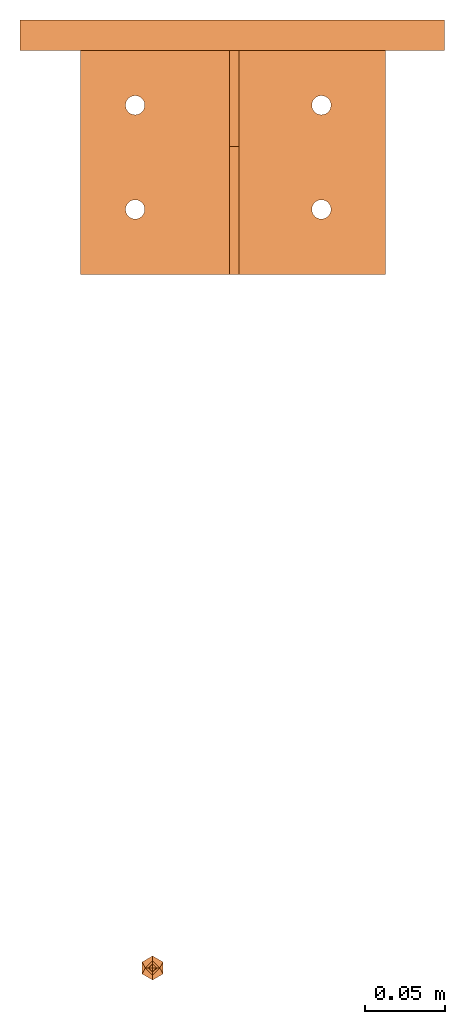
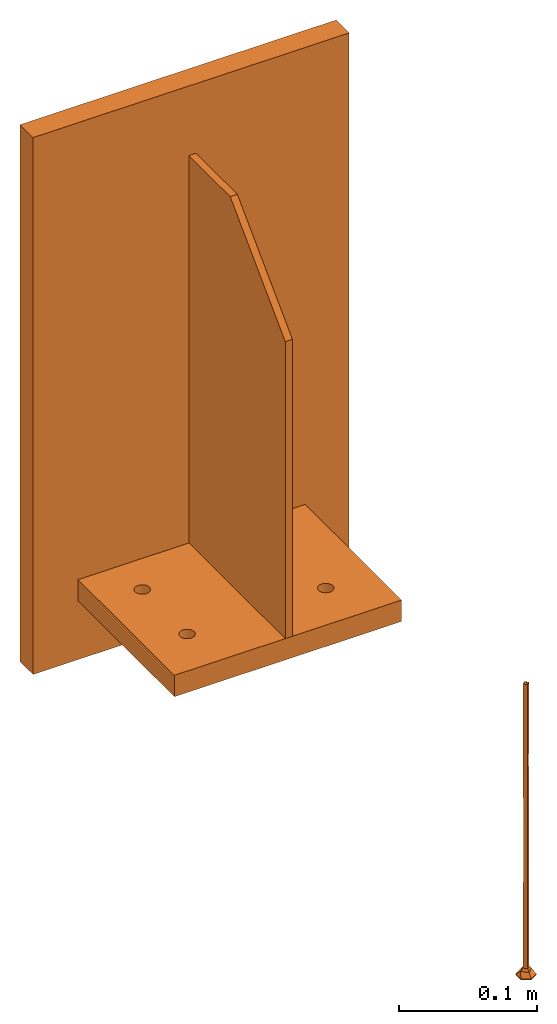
# One storey: 4 proxies.
"""IFC2X3 building model written with IfcOpenShell, lengths in millimetres."""

from ifc_helpers import new_model, entity, si_unit, converted_unit, derived_unit, direction, frame, frame_2d, origin, place, context, subcontext, project, spatial, polyline, circle_curve, parameter, trimmed, segment, composite_curve, rectangle, outline, extrude, faceted_brep, source, transform, mapped, material, type_object, type_shapes, element, save


model = new_model("IFC2X3")

# Units and contexts
model_context = context("Model", 3, precision=0.01, world=origin(), true_north=direction((6.123031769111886e-17, 1.0)))
body_context = subcontext(model_context, "Body", "Model", "MODEL_VIEW")
ifc_project = project(units=[si_unit("LENGTHUNIT", "METRE", prefix="MILLI"), si_unit("AREAUNIT", "SQUARE_METRE"), si_unit("VOLUMEUNIT", "CUBIC_METRE"), converted_unit("PLANEANGLEUNIT", "DEGREE", entity("IfcPlaneAngleMeasure", 0.017453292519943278), si_unit("PLANEANGLEUNIT", "RADIAN"), dimensions=[0, 0, 0, 0, 0, 0, 0]), si_unit("MASSUNIT", "GRAM", prefix="KILO"), derived_unit("MASSDENSITYUNIT", [(si_unit("MASSUNIT", "GRAM", prefix="KILO"), 1), (si_unit("LENGTHUNIT", "METRE"), -3)]), derived_unit("IONCONCENTRATIONUNIT", [(si_unit("MASSUNIT", "GRAM", prefix="KILO"), 1), (si_unit("LENGTHUNIT", "METRE"), -3)]), derived_unit("MOMENTOFINERTIAUNIT", [(si_unit("LENGTHUNIT", "METRE"), 4)]), si_unit("TIMEUNIT", "SECOND"), si_unit("FREQUENCYUNIT", "HERTZ"), si_unit("THERMODYNAMICTEMPERATUREUNIT", "DEGREE_CELSIUS"), derived_unit("THERMALTRANSMITTANCEUNIT", [(si_unit("MASSUNIT", "GRAM", prefix="KILO"), 1), (si_unit("THERMODYNAMICTEMPERATUREUNIT", "KELVIN"), -1), (si_unit("TIMEUNIT", "SECOND"), -3)]), derived_unit("THERMALCONDUCTANCEUNIT", [(si_unit("MASSUNIT", "GRAM", prefix="KILO"), 1), (si_unit("THERMODYNAMICTEMPERATUREUNIT", "KELVIN"), -1), (si_unit("TIMEUNIT", "SECOND"), -3), (si_unit("LENGTHUNIT", "METRE"), 1)]), derived_unit("VOLUMETRICFLOWRATEUNIT", [(si_unit("LENGTHUNIT", "METRE", prefix="DECI"), 3), (si_unit("TIMEUNIT", "SECOND"), -1)]), derived_unit("MASSFLOWRATEUNIT", [(si_unit("MASSUNIT", "GRAM", prefix="KILO"), 1), (si_unit("TIMEUNIT", "SECOND"), -1)]), derived_unit("ROTATIONALFREQUENCYUNIT", [(si_unit("TIMEUNIT", "SECOND"), -1)]), si_unit("ELECTRICCURRENTUNIT", "AMPERE"), si_unit("ELECTRICVOLTAGEUNIT", "VOLT"), si_unit("POWERUNIT", "WATT"), si_unit("FORCEUNIT", "NEWTON", prefix="KILO"), si_unit("ILLUMINANCEUNIT", "LUX"), si_unit("LUMINOUSFLUXUNIT", "LUMEN"), si_unit("LUMINOUSINTENSITYUNIT", "CANDELA"), si_unit("ENERGYUNIT", "JOULE"), derived_unit("USERDEFINED", [(si_unit("MASSUNIT", "GRAM", prefix="KILO"), -1), (si_unit("LENGTHUNIT", "METRE"), -2), (si_unit("TIMEUNIT", "SECOND"), 3), (si_unit("LUMINOUSFLUXUNIT", "LUMEN"), 1)]), derived_unit("USERDEFINED", [(si_unit("MASSUNIT", "GRAM", prefix="KILO"), 1), (si_unit("TIMEUNIT", "SECOND"), -3), (si_unit("LENGTHUNIT", "METRE"), 3), (si_unit("ELECTRICCURRENTUNIT", "AMPERE"), -2)]), derived_unit("SOUNDPOWERUNIT", [(si_unit("MASSUNIT", "GRAM", prefix="KILO"), 1), (si_unit("TIMEUNIT", "SECOND"), -3), (si_unit("LENGTHUNIT", "METRE"), 2)]), derived_unit("SOUNDPRESSUREUNIT", [(si_unit("MASSUNIT", "GRAM", prefix="KILO"), 1), (si_unit("LENGTHUNIT", "METRE"), -1), (si_unit("TIMEUNIT", "SECOND"), -2)]), derived_unit("LINEARVELOCITYUNIT", [(si_unit("LENGTHUNIT", "METRE"), 1), (si_unit("TIMEUNIT", "SECOND"), -1)]), si_unit("PRESSUREUNIT", "PASCAL"), derived_unit("USERDEFINED", [(si_unit("MASSUNIT", "GRAM", prefix="KILO"), 1), (si_unit("LENGTHUNIT", "METRE"), -2), (si_unit("TIMEUNIT", "SECOND"), -2)]), derived_unit("LINEARFORCEUNIT", [(si_unit("MASSUNIT", "GRAM", prefix="KILO"), 1), (si_unit("TIMEUNIT", "SECOND"), -2)]), derived_unit("PLANARFORCEUNIT", [(si_unit("MASSUNIT", "GRAM", prefix="KILO"), 1), (si_unit("LENGTHUNIT", "METRE"), -1), (si_unit("TIMEUNIT", "SECOND"), -2)]), derived_unit("SPECIFICHEATCAPACITYUNIT", [(si_unit("THERMODYNAMICTEMPERATUREUNIT", "KELVIN"), -1), (si_unit("LENGTHUNIT", "METRE"), 2), (si_unit("TIMEUNIT", "SECOND"), -2)]), derived_unit("HEATFLUXDENSITYUNIT", [(si_unit("MASSUNIT", "GRAM", prefix="KILO"), 1), (si_unit("TIMEUNIT", "SECOND"), -3)]), derived_unit("HEATINGVALUEUNIT", [(si_unit("LENGTHUNIT", "METRE"), 2), (si_unit("TIMEUNIT", "SECOND"), -2)]), derived_unit("VAPORPERMEABILITYUNIT", [(si_unit("LENGTHUNIT", "METRE"), -1), (si_unit("TIMEUNIT", "SECOND"), 1)]), derived_unit("DYNAMICVISCOSITYUNIT", [(si_unit("MASSUNIT", "GRAM", prefix="KILO"), 1), (si_unit("TIMEUNIT", "SECOND"), -1), (si_unit("LENGTHUNIT", "METRE"), -1)]), derived_unit("THERMALEXPANSIONCOEFFICIENTUNIT", [(si_unit("THERMODYNAMICTEMPERATUREUNIT", "KELVIN"), -1)]), derived_unit("MODULUSOFELASTICITYUNIT", [(si_unit("MASSUNIT", "GRAM", prefix="KILO"), 1), (si_unit("LENGTHUNIT", "METRE"), -1), (si_unit("TIMEUNIT", "SECOND"), -2)]), derived_unit("ISOTHERMALMOISTURECAPACITYUNIT", [(si_unit("MASSUNIT", "GRAM", prefix="KILO"), -1), (si_unit("LENGTHUNIT", "METRE"), 3)]), derived_unit("MOISTUREDIFFUSIVITYUNIT", [(si_unit("TIMEUNIT", "SECOND"), -1), (si_unit("LENGTHUNIT", "METRE"), 2)]), derived_unit("MASSPERLENGTHUNIT", [(si_unit("MASSUNIT", "GRAM", prefix="KILO"), 1), (si_unit("LENGTHUNIT", "METRE"), -1)]), derived_unit("THERMALRESISTANCEUNIT", [(si_unit("MASSUNIT", "GRAM", prefix="KILO"), -1), (si_unit("TIMEUNIT", "SECOND"), 3), (si_unit("THERMODYNAMICTEMPERATUREUNIT", "KELVIN"), 1)]), derived_unit("ACCELERATIONUNIT", [(si_unit("LENGTHUNIT", "METRE"), 1), (si_unit("TIMEUNIT", "SECOND"), -2)]), derived_unit("ANGULARVELOCITYUNIT", [(si_unit("TIMEUNIT", "SECOND"), -1), (si_unit("PLANEANGLEUNIT", "RADIAN"), 1)]), derived_unit("LINEARSTIFFNESSUNIT", [(si_unit("MASSUNIT", "GRAM", prefix="KILO"), 1), (si_unit("TIMEUNIT", "SECOND"), -2)]), derived_unit("WARPINGCONSTANTUNIT", [(si_unit("LENGTHUNIT", "METRE"), 6)]), derived_unit("LINEARMOMENTUNIT", [(si_unit("MASSUNIT", "GRAM", prefix="KILO"), 1), (si_unit("LENGTHUNIT", "METRE"), 1), (si_unit("TIMEUNIT", "SECOND"), -2)]), derived_unit("TORQUEUNIT", [(si_unit("MASSUNIT", "GRAM", prefix="KILO"), 1), (si_unit("LENGTHUNIT", "METRE"), 2), (si_unit("TIMEUNIT", "SECOND"), -2)])], contexts=[model_context])

# Site, building, storey
site_placement = place(None, origin())
site = spatial("IfcSite", under=ifc_project, at=site_placement, Name="Default", CompositionType="ELEMENT")
building_placement = place(site_placement, origin())
building = spatial("IfcBuilding", under=site, at=building_placement, Name="Building Name", CompositionType="ELEMENT")
storey_placement = place(building_placement, frame((0.0, 0.0, 13448.0)))
storey = spatial("IfcBuildingStorey", under=building, at=storey_placement, Name="U/S DAYCARE ROOF", CompositionType="ELEMENT", Elevation=13447.999999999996)

# Proxies
ifc_material_1 = material(Name="Metal - Steel - 345 MPa")
building_element_proxy_type_1 = type_object("IfcBuildingElementProxyType", Name="Structural Connections 1:Structural Connections 1", PredefinedType="NOTDEFINED", material=ifc_material_1)
shared_shape_1 = source(origin(), body_context, "Body", "SweptSolid", [
    extrude(outline(polyline([(-95.22534623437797, -69.98057208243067), (95.22534623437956, -69.98057208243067), (95.22534623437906, 69.980572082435), (-95.22534623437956, 69.980572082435), (-95.22534623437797, -69.98057208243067)]), holes=[composite_curve([segment(trimmed(circle_curve(frame_2d((-55.16705616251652, -35.74666509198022), x_axis=(0.0, -1.0)), 6.0), [parameter(6.615553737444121e-13)], [parameter(180.00000000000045)], True, "PARAMETER"), False, "CONTINUOUS"), segment(trimmed(circle_curve(frame_2d((-55.16705616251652, -35.74666509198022), x_axis=(0.0, -1.0)), 6.0), [parameter(180.00000000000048)], [parameter(6.615553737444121e-13)], True, "PARAMETER"), False, "CONTINUOUS")], self_intersect=False), composite_curve([segment(trimmed(circle_curve(frame_2d((-55.16705616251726, 29.25333490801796), x_axis=(0.0, -1.0)), 6.0), [parameter(6.615553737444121e-13)], [parameter(180.00000000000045)], True, "PARAMETER"), False, "CONTINUOUS"), segment(trimmed(circle_curve(frame_2d((-55.16705616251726, 29.25333490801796), x_axis=(0.0, -1.0)), 6.0), [parameter(180.00000000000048)], [parameter(6.615553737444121e-13)], True, "PARAMETER"), False, "CONTINUOUS")], self_intersect=False), composite_curve([segment(trimmed(circle_curve(frame_2d((61.02341115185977, -35.7466650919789), x_axis=(0.0, -1.0)), 6.0), [parameter(6.615553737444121e-13)], [parameter(180.00000000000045)], True, "PARAMETER"), False, "CONTINUOUS"), segment(trimmed(circle_curve(frame_2d((61.02341115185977, -35.7466650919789), x_axis=(0.0, -1.0)), 6.0), [parameter(180.00000000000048)], [parameter(6.615553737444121e-13)], True, "PARAMETER"), False, "CONTINUOUS")], self_intersect=False), composite_curve([segment(trimmed(circle_curve(frame_2d((61.02341115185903, 29.25333490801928), x_axis=(0.0, -1.0)), 6.0), [parameter(6.615553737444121e-13)], [parameter(180.00000000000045)], True, "PARAMETER"), False, "CONTINUOUS"), segment(trimmed(circle_curve(frame_2d((61.02341115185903, 29.25333490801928), x_axis=(0.0, -1.0)), 6.0), [parameter(180.00000000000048)], [parameter(6.615553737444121e-13)], True, "PARAMETER"), False, "CONTINUOUS")], self_intersect=False)]), frame((5576.49301251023, 15609.067397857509, 13450.875000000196), z_axis=(0.0, 0.0, 1.0), x_axis=(-1.0, 0.0, 0.0)), (0.0, 0.0, 1.0), 18.93561807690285),
])
type_shapes(building_element_proxy_type_1, [shared_shape_1])
proxy_1_placement = place(storey_placement, frame((0.0, 0.0, -13448.0)))
element("IfcBuildingElementProxy", 1, at=proxy_1_placement, inside=storey, type_object=building_element_proxy_type_1, material=ifc_material_1, Name="Structural Connections 1:Structural Connections 1", ObjectType="Structural Connections 1:Structural Connections 1", context=body_context, shape_type="MappedRepresentation", body=[
    mapped(shared_shape_1, transform((0.0, 0.0, 0.0), scale=1.0)),
])
building_element_proxy_type_2 = type_object("IfcBuildingElementProxyType", Name="Structural Connections 3:Structural Connections 3", PredefinedType="NOTDEFINED", material=ifc_material_1)
shared_shape_2 = source(origin(), body_context, "Body", "SweptSolid", [
    extrude(outline(polyline([(-67.9766864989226, -153.2757527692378), (-8.015542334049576, -153.2757527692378), (71.98445766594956, -73.27575276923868), (71.98445766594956, 189.91362915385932), (-67.9766864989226, 189.91362915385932), (-67.9766864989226, -153.2757527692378)])), frame((5574.245782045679, 15611.071283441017, 13659.724247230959), z_axis=(1.0, 0.0, 0.0), x_axis=(0.0, -1.0, 0.0)), (0.0, 0.0, 1.0), 5.9999999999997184),
])
type_shapes(building_element_proxy_type_2, [shared_shape_2])
proxy_2_placement = place(storey_placement, frame((0.0, 0.0, -13448.0)))
element("IfcBuildingElementProxy", 2, at=proxy_2_placement, inside=storey, type_object=building_element_proxy_type_2, material=ifc_material_1, Name="Structural Connections 3:Structural Connections 3", ObjectType="Structural Connections 3:Structural Connections 3", context=body_context, shape_type="MappedRepresentation", body=[
    mapped(shared_shape_2, transform((0.0, 0.0, 0.0), scale=1.0)),
])
building_element_proxy_type_3 = type_object("IfcBuildingElementProxyType", Name="Structural Connections 54:Structural Connections 1", PredefinedType="NOTDEFINED", material=ifc_material_1)
shared_shape_3 = source(origin(), body_context, "Body", "SweptSolid", [
    extrude(rectangle(XDim=264.97487647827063, YDim=18.93454424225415, at=frame_2d((-5.400124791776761e-13, 0.0), x_axis=(1.0, 0.0))), frame((5576.1166277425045, 15664.21836706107, 13821.983507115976), z_axis=(0.0, 0.0, 1.0), x_axis=(-1.0, 0.0, 0.0)), (0.0, 0.0, 1.0), 475.770972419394),
])
type_shapes(building_element_proxy_type_3, [shared_shape_3])
proxy_3_placement = place(storey_placement, frame((0.0, 24.296875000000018, -13871.124999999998)))
element("IfcBuildingElementProxy", 3, at=proxy_3_placement, inside=storey, type_object=building_element_proxy_type_3, material=ifc_material_1, Name="Structural Connections 54:Structural Connections 1", ObjectType="Structural Connections 54:Structural Connections 1", context=body_context, shape_type="MappedRepresentation", body=[
    mapped(shared_shape_3, transform((0.0, 0.0, 0.0), scale=1.0)),
])
ifc_material_2 = material(Name="<Unnamed>")
building_element_proxy_type_4 = type_object("IfcBuildingElementProxyType", Name="CSK SCREW 8mm_with_Void:8-260/243_90°", PredefinedType="NOTDEFINED", material=ifc_material_2)
shared_shape_4 = source(origin(), body_context, "Body", "Brep", [
    faceted_brep([(-2.450000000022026, 0.0, -231.22838210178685), (8.511511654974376e-09, 2.450000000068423, -217.5649274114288), (0.0, 2.45000000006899, -258.5552918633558), (0.0, 2.450000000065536, -8.777915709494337), (2.4500000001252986, 0.0, -8.777915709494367), (2.4500000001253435, 0.0, -36.10482584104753), (2.4500000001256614, 0.0, -231.2283817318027), (2.4500000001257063, 0.0, -258.5552918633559), (0.9340491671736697, 1.5159508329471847, -258.5552918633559), (-2.450000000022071, 0.0, -203.90147234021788), (-2.4500000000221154, 0.0, -176.5745625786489), (0.3118487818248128, 2.430072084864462, -149.27769130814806), (-0.25950752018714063, 2.4362175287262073, -187.0012319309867), (0.22774305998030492, 2.4393919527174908, -115.89278608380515), (-2.45000000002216, 0.0, -149.24765160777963), (-2.4500000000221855, 0.0, -133.66660456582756), (-2.4500000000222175, 0.0, -114.13021763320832), (-0.06297208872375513, 2.449190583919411, -54.36239699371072), (0.2338659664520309, 2.438812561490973, -86.8333479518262), (2.4500000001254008, 0.0, -71.22225974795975), (2.4500000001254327, 0.0, -90.75864730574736), (2.450000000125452, 0.0, -102.44443176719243), (-2.450000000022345, 0.0, -36.10482547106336), (-2.4500000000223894, 0.0, -8.777915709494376), (-0.46702458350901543, 1.9829754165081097, -258.5552918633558), (-0.934049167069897, 1.5159508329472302, -258.5552918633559), (-2.4500000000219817, 0.0, -258.5552918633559), (2.4500000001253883, 0.0, -63.43173758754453), (2.4500000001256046, 0.0, -196.1109478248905), (-2.4500000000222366, 0.0, -102.4444327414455), (-2.450000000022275, 0.0, -79.012783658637), (-2.4500000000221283, 0.0, -168.7840381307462), (2.450000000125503, 0.0, -133.66660378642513), (2.450000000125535, 0.0, -153.2029901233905), (2.4500000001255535, 0.0, -164.88877580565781), (2.4500000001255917, 0.0, -188.32042322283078), (-2.4500000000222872, 0.0, -71.22226091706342), (2.4500000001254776, 0.0, -118.08555702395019), (0.23416485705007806, -2.4387838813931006, -104.42210271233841), (0.48938408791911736, -2.400625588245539, -77.01362915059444), (0.21724671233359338, -2.4403491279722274, -161.18585108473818), (3.729015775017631e-08, -2.450000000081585, -49.7682823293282), (0.0, -2.4500000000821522, -8.777915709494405), (0.33011295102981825, -2.4276584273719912, -134.1574023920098), (1.5535356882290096e-08, -2.450000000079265, -217.5649274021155), (0.0, -2.4500000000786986, -258.5552918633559), (-0.3254229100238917, -2.428291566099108, -187.94798616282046), (0.46702458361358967, -1.9829754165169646, -258.5552918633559), (0.9340491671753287, -1.515950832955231, -258.5552918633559), (-0.9340491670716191, -1.5159508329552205, -258.5552918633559), (1.3232025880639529, 0.0, -259.21973814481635), (0.0, 0.0, -260.0), (-1.3232025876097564, 0.0, -259.219738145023), (0.0, 2.739138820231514, -7.0), (2.739138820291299, 0.0, -7.0), (-2.7391388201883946, 0.0, -7.0), (0.0, -2.7391388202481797, -7.0), (4.514810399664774, 0.0, -4.6000000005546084), (0.0, 4.51481039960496, -4.600000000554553), (-4.5148103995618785, 0.0, -4.6000000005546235), (0.0, -4.514810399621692, -4.600000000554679), (3.7500000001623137, 6.495190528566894, -1.0), (6.073211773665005, 2.47126970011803, -1.0), (7.500000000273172, 0.0, -1.0), (-3.75000000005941, 6.495190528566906, -1.0), (-7.500000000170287, 0.0, -1.0), (-5.6250000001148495, 3.247595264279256, -1.0), (0.0, 6.4951905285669, -1.0), (-3.7500000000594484, -6.495190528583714, -1.0), (-6.073211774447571, -2.471269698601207, -1.0), (3.7500000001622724, -6.495190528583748, -1.0), (5.625000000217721, -3.2475952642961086, -1.0), (0.0, -6.495190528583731, -1.0), (5.6250000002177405, 3.2475952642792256, 0.0), (7.50000000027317, 0.0, 0.0), (3.750000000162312, 6.495190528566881, 0.0), (0.0, 6.495190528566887, 0.0), (-3.7500000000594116, 6.4951905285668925, 0.0), (-6.073211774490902, 2.4712696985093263, 0.0), (-7.500000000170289, 0.0, 0.0), (-5.625000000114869, -3.2475952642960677, 0.0), (-3.7500000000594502, -6.495190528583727, 0.0), (0.0, -6.495190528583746, 0.0), (3.7500000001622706, -6.495190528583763, 0.0), (6.073211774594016, -2.4712696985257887, 0.0), (0.0, 0.0, 0.0)], [[[0, 1, 2]], [[3, 4, 5]], [[6, 7, 8, 2]], [[9, 1, 0]], [[10, 11, 12]], [[1, 9, 12]], [[13, 14, 15, 16]], [[5, 17, 3]], [[16, 18, 13]], [[18, 19, 20, 21]], [[22, 23, 3]], [[0, 2, 24, 25, 26]], [[17, 5, 27, 19]], [[28, 1, 12]], [[18, 17, 19]], [[18, 16, 29, 30]], [[28, 6, 1]], [[2, 1, 6]], [[11, 10, 31, 14]], [[18, 21, 13]], [[11, 32, 33, 34]], [[12, 34, 35, 28]], [[17, 30, 36, 22]], [[30, 17, 18]], [[17, 22, 3]], [[13, 21, 37, 32]], [[13, 32, 11]], [[12, 11, 34]], [[13, 11, 14]], [[12, 9, 10]], [[29, 38, 39]], [[40, 15, 14, 31]], [[41, 42, 22]], [[15, 43, 38]], [[44, 45, 6]], [[44, 35, 46]], [[42, 41, 5]], [[45, 44, 0]], [[38, 37, 21, 20]], [[33, 43, 40]], [[39, 36, 30, 29]], [[6, 45, 47, 48, 7]], [[5, 4, 42]], [[42, 23, 22]], [[0, 26, 49, 45]], [[0, 44, 9]], [[44, 6, 28, 35]], [[5, 41, 27]], [[36, 41, 22]], [[39, 20, 19, 27]], [[39, 27, 41]], [[38, 29, 16, 15]], [[46, 40, 31]], [[37, 38, 43]], [[44, 46, 9]], [[43, 33, 32, 37]], [[40, 35, 34, 33]], [[46, 31, 10, 9]], [[36, 39, 41]], [[20, 39, 38]], [[40, 43, 15]], [[35, 40, 46]], [[8, 7, 50, 51, 2]], [[2, 51, 52, 26, 25, 24]], [[49, 26, 52, 51, 45]], [[45, 51, 50, 7, 48, 47]], [[4, 3, 53, 54]], [[53, 3, 23, 55]], [[23, 42, 56, 55]], [[56, 42, 4, 54]], [[57, 54, 53, 58]], [[53, 55, 59, 58]], [[59, 55, 56, 60]], [[56, 54, 57, 60]], [[57, 61, 62, 63]], [[61, 57, 58]], [[58, 59, 64]], [[59, 65, 66, 64]], [[58, 64, 67, 61]], [[59, 68, 69, 65]], [[68, 59, 60]], [[60, 57, 70]], [[57, 63, 71, 70]], [[60, 70, 72, 68]], [[73, 74, 63, 62, 61, 75]], [[76, 75, 61, 67, 64, 77]], [[78, 77, 64, 66, 65, 79]], [[80, 79, 65, 69, 68, 81]], [[82, 81, 68, 72, 70, 83]], [[84, 83, 70, 71, 63, 74]], [[85, 77, 78]], [[85, 78, 79]], [[85, 79, 80]], [[85, 76, 77]], [[85, 75, 76]], [[85, 73, 75]], [[85, 74, 73]], [[85, 80, 81]], [[85, 81, 82]], [[85, 84, 74]], [[85, 83, 84]], [[85, 82, 83]]]),
])
type_shapes(building_element_proxy_type_4, [shared_shape_4])
proxy_4_placement = place(storey_placement, frame((5526.342454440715, 15106.586825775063, 2.8750000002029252), z_axis=(0.0, 0.0, -1.0), x_axis=(0.0, -1.0, 0.0)))
element("IfcBuildingElementProxy", 4, at=proxy_4_placement, inside=storey, type_object=building_element_proxy_type_4, material=ifc_material_2, Name="CSK SCREW 8mm_with_Void:8-260/243_90°", ObjectType="CSK SCREW 8mm_with_Void:8-260/243_90°", context=body_context, shape_type="MappedRepresentation", body=[
    mapped(shared_shape_4, transform((0.0, 0.0, 0.0), scale=1.0)),
])

save(model, "model.ifc")
